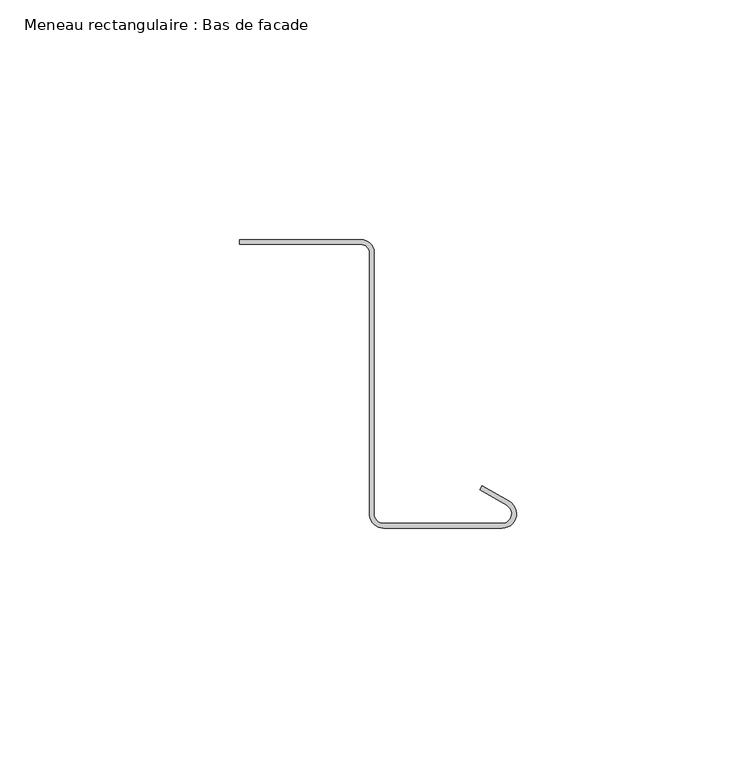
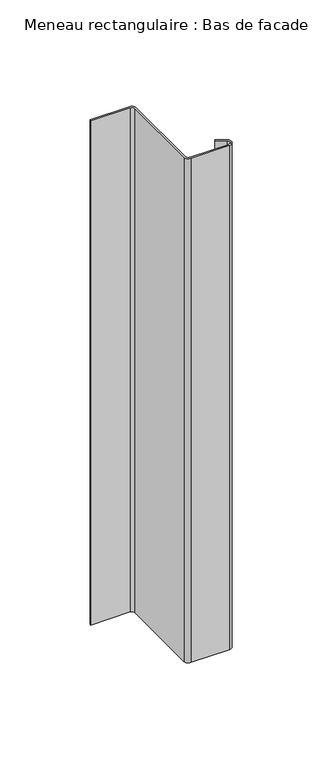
"""IFC4 building model written with IfcOpenShell, lengths in millimetres: member geometry, Meneau rectangulaire : Bas de facade."""

from ifc_helpers import new_model, si_unit, point, frame, frame_2d, origin, place, context, project, spatial, polyline, circle_curve, trimmed, segment, composite_curve, outline, extrude, source, transform, mapped, element, save


def meneau_rectangulaire_bas_de_facade_3b4feb22(model_context):
    return source(origin(), model_context, "Body", "SweptSolid", [
        extrude(outline(composite_curve([segment(trimmed(circle_curve(frame_2d((-32.4584179, 0.2088923)), 2.75), [point((-32.4584179, 2.9588923))], [point((-29.7143802, 0.3898824))], False, "CARTESIAN"), True, "CONTINUOUS"), segment(polyline([(-29.7143802, 0.3898824), (-29.7143802, -54.5495817)]), True, "CONTINUOUS"), segment(trimmed(circle_curve(frame_2d((-27.735368, -54.2605998)), 2.0), [point((-29.7143802, -54.5495817))], [point((-27.735368, -56.2605998))], True, "CARTESIAN"), True, "CONTINUOUS"), segment(polyline([(-27.735368, -56.2605998), (-3.0, -56.2605998)]), True, "CONTINUOUS"), segment(trimmed(circle_curve(frame_2d((-3.0, -54.2605998)), 2.0), [point((-3.0, -56.2605998))], [point((-2.0, -52.528549))], True, "CARTESIAN"), True, "CONTINUOUS"), segment(polyline([(-2.0, -52.528549), (-7.6638061, -49.258549), (-7.1638061, -48.3925235), (-1.5, -51.6625235)]), True, "CONTINUOUS"), segment(trimmed(circle_curve(frame_2d((-3.0, -54.2605998)), 3.0), [point((-1.5, -51.6625235))], [point((-3.0, -57.2605998))], False, "CARTESIAN"), True, "CONTINUOUS"), segment(polyline([(-3.0, -57.2605998), (-27.735368, -57.2605998)]), True, "CONTINUOUS"), segment(trimmed(circle_curve(frame_2d((-27.735368, -54.2605998)), 3.0), [point((-27.735368, -57.2605998))], [point((-30.7239521, -54.522067))], False, "CARTESIAN"), True, "CONTINUOUS"), segment(polyline([(-30.7239521, -54.522067), (-30.7239521, 0.4415475)]), True, "CONTINUOUS"), segment(trimmed(circle_curve(frame_2d((-32.4584179, 0.2088923)), 1.75), [point((-30.7239521, 0.4415475))], [point((-32.4584179, 1.9588923))], True, "CARTESIAN"), True, "CONTINUOUS"), segment(polyline([(-32.4584179, 1.9588923), (-57.8548383, 1.9588923), (-57.8548383, 2.9588923), (-32.4584179, 2.9588923)]), True, "CONTINUOUS")], self_intersect=False)), frame((0.0, 0.0, -342.0), z_axis=(0.0, 0.0, 1.0), x_axis=(1.0, 0.0, 0.0)), (0.0, 0.0, 1.0), 342.0),
    ])


if __name__ == "__main__":
    model = new_model("IFC4")
    model_context = context("Model", 3, world=origin())
    ifc_project = project(units=[si_unit("LENGTHUNIT", "METRE", prefix="MILLI")], contexts=[model_context])
    site = spatial("IfcSite", under=ifc_project)
    building = spatial("IfcBuilding", under=site)
    placement = place(None, origin())
    meneau_rectangulaire_bas_de_facade_shape = meneau_rectangulaire_bas_de_facade_3b4feb22(model_context)
    element("IfcMember", 1, ObjectType="Meneau rectangulaire : Bas de facade", at=placement, inside=building, context=model_context, shape_type="MappedRepresentation", body=[
        mapped(meneau_rectangulaire_bas_de_facade_shape, transform((0.0, 0.0, 0.0), x_axis=(1.0, 0.0, 0.0), y_axis=(0.0, 1.0, 0.0), z_axis=(0.0, 0.0, 1.0))),
    ])
    save(model, "model.ifc")
